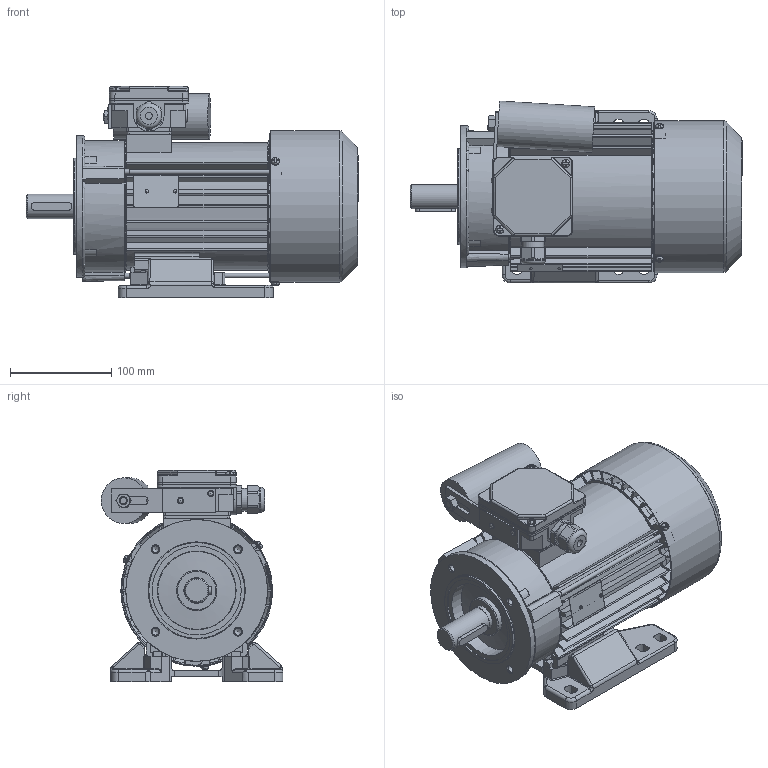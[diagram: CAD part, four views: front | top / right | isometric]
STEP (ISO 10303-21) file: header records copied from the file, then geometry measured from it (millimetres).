
FILE_DESCRIPTION( ( 'Unknown' ), '1' );
FILE_NAME( 'G:/Poczta Tk-1/STP/w.m.90/SEh90/SELh90-.L2.stp', 'Unknown', ( 'K. Szlosek' ), ( 'BESEL S.A.' ), 'PSStep 17.0.49', 'Unknown', ' ' );
FILE_SCHEMA( ( 'AUTOMOTIVE_DESIGN { 1 0 10303 214 1 1 1 1 }' ) );
Length unit declared in the file: millimetre
Products named in the file (38): skrznka zaciskowa jednofazowa ; K4-2820 Uszczelka nr 2 Sh71,80; K2-1131 Podstawa skrzynki zaciskowej jednofazowa; K4-2999 Uchwyt kondensatora; Nit 4x12 po skróceniu; nakrętka M8; K4-0898 Tulejka uszczelniająca; Dławnica M20x1,5; K2-0860 Pokrywka skrzynki zaciskowej; Assem1; K1-1257 Kadłub S(E,M)h80-C i D; K3-7810 wał S(E,M)h90-.L; K2-1715 Przewietrznik; Wpust A8x7x40; K3-2964 Osłona przewietrznika Sh80,90; K4-2320 Uszczelka nr 1 Sh71,80; K3-7771 Tarcza łożyskowa P S(E,M)h90-L tymczasowy; Wkręt samogwintujący M4x8; Nitokołek A 2x6; Łożysko 6205; Pierścień osadczy sprężyn. Z25; Tabliczka znamionowa 32x44; Śruba ściągająca E_M5x168; Kondensator zb 25-31,5uF Comar; Wkręt samogwintujący M4x12; K3-7773 Tarcza kołnierzowa B14_2 SKh90-..2; K1-1130 Łapa wymiar 90
Assembly tree (56 placements, depth 3):
  Assem1
    K1-1257 Kadłub S(E,M)h80-C i D
    K3-7810 wał S(E,M)h90-.L
    K2-1715 Przewietrznik
    Wpust A8x7x40
    K3-2964 Osłona przewietrznika Sh80,90
    K4-2320 Uszczelka nr 1 Sh71,80
    K3-7771 Tarcza łożyskowa P S(E,M)h90-L tymczasowy
    Wkręt samogwintujący M4x8  x3
    Nitokołek A 2x6  x2
    Łożysko 6205  x2
    Łożysko 6205  x2
    Łożysko 6205  x2
    Łożysko 6205  x2
    Łożysko 6205  x2
    Łożysko 6205  x2
    Łożysko 6205  x2
    Łożysko 6205  x2
    Łożysko 6205  x2
    Łożysko 6205  x2
    Łożysko 6205  x2
    Łożysko 6205  x2
    Pierścień osadczy sprężyn. Z25
    Tabliczka znamionowa 32x44
    Śruba ściągająca E_M5x168  x3
    Kondensator zb 25-31,5uF Comar
    Wkręt samogwintujący M4x12  x2
    K3-7773 Tarcza kołnierzowa B14_2 SKh90-..2
    K1-1130 Łapa wymiar 90
    skrznka zaciskowa jednofazowa 
      K4-2820 Uszczelka nr 2 Sh71,80
      K2-1131 Podstawa skrzynki zaciskowej jednofazowa
      K4-2999 Uchwyt kondensatora
      Nit 4x12 po skróceniu  x2
      nakrętka M8
      K4-0898 Tulejka uszczelniająca
      Dławnica M20x1,5
      K2-0860 Pokrywka skrzynki zaciskowej
Bounding box: 327.8 x 179.3 x 208.5 mm (x, y, z)
Volume: 1278572.4 mm3; surface area: 723037.9 mm2
Topology: 55 solids, 75 shells, 3457 faces, 9580 edges, 6208 vertices
Faces by surface type: plane 1654, cylinder 1089, cone 223, torus 222, bspline 211, sphere 58
Full cylindrical faces by diameter (mm): 2 x4, 2.4 x2, 3 x1, 3.7 x11, 4 x8, 4.2 x3, 4.3 x2, 4.5 x3, 4.6 x3, 4.8 x4, 5 x7, 5.5 x3, 6 x2, 6.5 x5, 6.647 x1, 6.8 x4, 7 x1, 8 x10, 10 x2, 18.376 x1, 18.38 x1, 19.3 x1, 19.5 x1, 19.9 x1, 20 x1, 22.3 x1, 23.9 x1, 24 x1, 25 x6, 25.4 x2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
Entity records: 176121 total; most frequent: CARTESIAN_POINT 72831, ORIENTED_EDGE 17540, DIRECTION 16663, EDGE_CURVE 8770, AXIS2_PLACEMENT_3D 6130, VERTEX_POINT 5853, LINE 4403, VECTOR 4403
